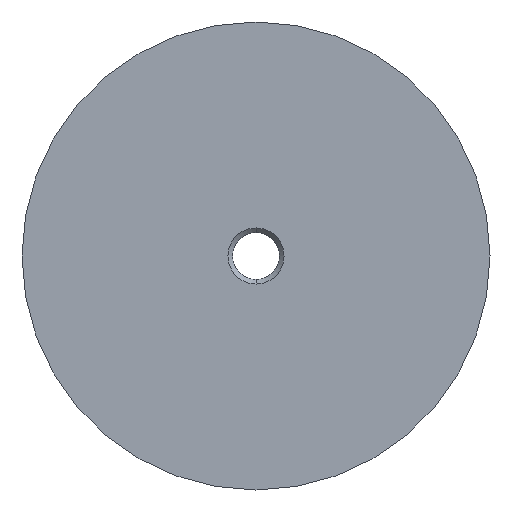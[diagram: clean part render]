
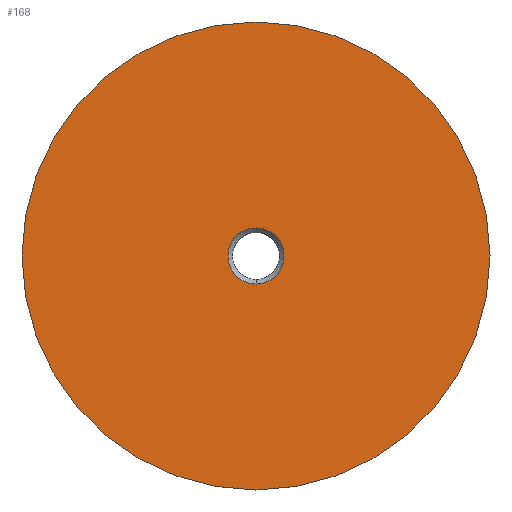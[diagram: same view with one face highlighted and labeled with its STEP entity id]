
A CAD part, front view. The second image highlights one B-rep face of the part: STEP entity #168.
In plain terms, the highlighted planar face has unit normal (0, -1, 0).
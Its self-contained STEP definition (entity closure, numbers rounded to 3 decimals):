
#7 = CIRCLE ( 'NONE', #154, 25. ) ;
#25 = CARTESIAN_POINT ( 'NONE',  ( 0., -5., 0. ) ) ;
#31 = DIRECTION ( 'NONE',  ( 0., -1., 0. ) ) ;
#33 = DIRECTION ( 'NONE',  ( 0., 0., -1. ) ) ;
#41 = EDGE_LOOP ( 'NONE', ( #153, #111 ) ) ;
#71 = ORIENTED_EDGE ( 'NONE', *, *, #401, .T. ) ;
#76 = CARTESIAN_POINT ( 'NONE',  ( -25., -5., 0. ) ) ;
#80 = FACE_BOUND ( 'NONE', #41, .T. ) ;
#96 = CARTESIAN_POINT ( 'NONE',  ( 0., -5., -3. ) ) ;
#100 = DIRECTION ( 'NONE',  ( 1., 0., 0. ) ) ;
#101 = DIRECTION ( 'NONE',  ( 0., -1., 0. ) ) ;
#111 = ORIENTED_EDGE ( 'NONE', *, *, #221, .F. ) ;
#133 = EDGE_CURVE ( 'NONE', #169, #143, #7, .T. ) ;
#138 = DIRECTION ( 'NONE',  ( 0., -1., 0. ) ) ;
#143 = VERTEX_POINT ( 'NONE', #76 ) ;
#152 = CARTESIAN_POINT ( 'NONE',  ( 0., -5., 0. ) ) ;
#153 = ORIENTED_EDGE ( 'NONE', *, *, #178, .F. ) ;
#154 = AXIS2_PLACEMENT_3D ( 'NONE', #152, #138, #100 ) ;
#155 = CARTESIAN_POINT ( 'NONE',  ( 0., -5., 0. ) ) ;
#164 = ORIENTED_EDGE ( 'NONE', *, *, #133, .T. ) ;
#168 = ADVANCED_FACE ( 'NONE', ( #80, #274 ), #369, .T. ) ;
#169 = VERTEX_POINT ( 'NONE', #170 ) ;
#170 = CARTESIAN_POINT ( 'NONE',  ( 25., -5., 0. ) ) ;
#172 = AXIS2_PLACEMENT_3D ( 'NONE', #296, #308, #271 ) ;
#178 = EDGE_CURVE ( 'NONE', #303, #400, #275, .T. ) ;
#221 = EDGE_CURVE ( 'NONE', #400, #303, #259, .T. ) ;
#252 = AXIS2_PLACEMENT_3D ( 'NONE', #155, #101, #376 ) ;
#259 = CIRCLE ( 'NONE', #315, 3. ) ;
#267 = AXIS2_PLACEMENT_3D ( 'NONE', #347, #366, #367 ) ;
#271 = DIRECTION ( 'NONE',  ( 1., 0., 0. ) ) ;
#274 = FACE_OUTER_BOUND ( 'NONE', #374, .T. ) ;
#275 = CIRCLE ( 'NONE', #252, 3. ) ;
#296 = CARTESIAN_POINT ( 'NONE',  ( 0., -5., 0. ) ) ;
#303 = VERTEX_POINT ( 'NONE', #96 ) ;
#308 = DIRECTION ( 'NONE',  ( 0., -1., 0. ) ) ;
#315 = AXIS2_PLACEMENT_3D ( 'NONE', #25, #31, #33 ) ;
#319 = CARTESIAN_POINT ( 'NONE',  ( 0., -5., 3. ) ) ;
#347 = CARTESIAN_POINT ( 'NONE',  ( 0., -5., 0. ) ) ;
#366 = DIRECTION ( 'NONE',  ( 0., -1., 0. ) ) ;
#367 = DIRECTION ( 'NONE',  ( 1., 0., 0. ) ) ;
#369 = PLANE ( 'NONE',  #267 ) ;
#372 = CIRCLE ( 'NONE', #172, 25. ) ;
#374 = EDGE_LOOP ( 'NONE', ( #71, #164 ) ) ;
#376 = DIRECTION ( 'NONE',  ( 0., 0., -1. ) ) ;
#400 = VERTEX_POINT ( 'NONE', #319 ) ;
#401 = EDGE_CURVE ( 'NONE', #143, #169, #372, .T. ) ;
